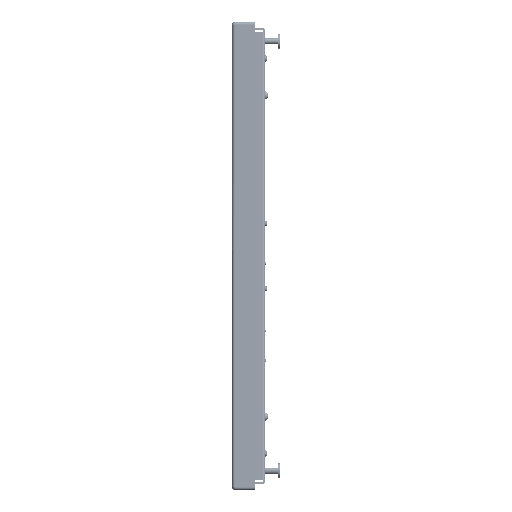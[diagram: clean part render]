
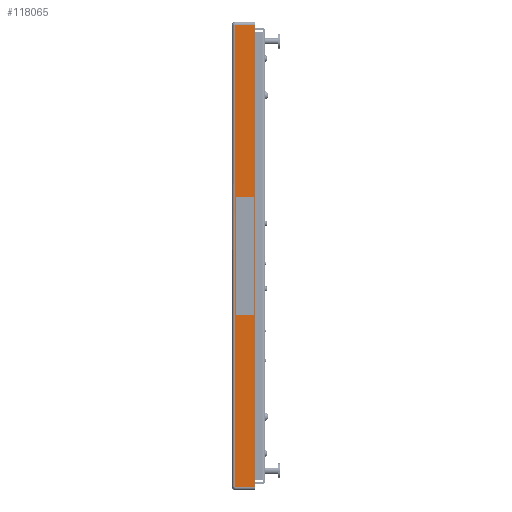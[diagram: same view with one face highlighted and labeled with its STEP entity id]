
A CAD part, left-side view. The second image highlights one B-rep face of the part: STEP entity #118065.
In plain terms, the highlighted planar face has unit normal (-1, 0, 0).
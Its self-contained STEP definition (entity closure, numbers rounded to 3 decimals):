
#6507 = VERTEX_POINT ( 'NONE', #374764 ) ;
#6635 = CARTESIAN_POINT ( 'NONE',  ( -300., 0., -296.27 ) ) ;
#19718 = CARTESIAN_POINT ( 'NONE',  ( -300., 26.437, 0. ) ) ;
#20624 = DIRECTION ( 'NONE',  ( 0., 0., -1. ) ) ;
#21060 = VERTEX_POINT ( 'NONE', #173782 ) ;
#32188 = LINE ( 'NONE', #207276, #136182 ) ;
#47949 = ORIENTED_EDGE ( 'NONE', *, *, #201762, .T. ) ;
#111604 = EDGE_CURVE ( 'NONE', #307796, #400968, #32188, .T. ) ;
#114631 = CARTESIAN_POINT ( 'NONE',  ( -300., 0., 296.27 ) ) ;
#118065 = ADVANCED_FACE ( 'NONE', ( #252445 ), #391889, .F. ) ;
#124772 = ORIENTED_EDGE ( 'NONE', *, *, #319680, .T. ) ;
#136182 = VECTOR ( 'NONE', #20624, 1000. ) ;
#148269 = DIRECTION ( 'NONE',  ( 0., 0., -1. ) ) ;
#159074 = VECTOR ( 'NONE', #399390, 1000. ) ;
#170080 = CARTESIAN_POINT ( 'NONE',  ( -300., 0.813, -296.27 ) ) ;
#173782 = CARTESIAN_POINT ( 'NONE',  ( -300., 26.437, -296.27 ) ) ;
#190767 = VECTOR ( 'NONE', #148269, 1000. ) ;
#201762 = EDGE_CURVE ( 'NONE', #6507, #21060, #284905, .T. ) ;
#207276 = CARTESIAN_POINT ( 'NONE',  ( -300., 0.813, -300. ) ) ;
#227897 = DIRECTION ( 'NONE',  ( 0., 1., 0. ) ) ;
#228466 = EDGE_LOOP ( 'NONE', ( #392035, #124772, #47949, #402388 ) ) ;
#246309 = AXIS2_PLACEMENT_3D ( 'NONE', #266206, #300558, #361457 ) ;
#252445 = FACE_OUTER_BOUND ( 'NONE', #228466, .T. ) ;
#253212 = LINE ( 'NONE', #114631, #159074 ) ;
#253885 = EDGE_CURVE ( 'NONE', #400968, #21060, #304520, .T. ) ;
#266206 = CARTESIAN_POINT ( 'NONE',  ( -300., 0., 0. ) ) ;
#284905 = LINE ( 'NONE', #19718, #190767 ) ;
#300558 = DIRECTION ( 'NONE',  ( 1., 0., 0. ) ) ;
#304520 = LINE ( 'NONE', #6635, #378766 ) ;
#307796 = VERTEX_POINT ( 'NONE', #326710 ) ;
#319680 = EDGE_CURVE ( 'NONE', #307796, #6507, #253212, .T. ) ;
#326710 = CARTESIAN_POINT ( 'NONE',  ( -300., 0.813, 296.27 ) ) ;
#361457 = DIRECTION ( 'NONE',  ( 0., 1., 0. ) ) ;
#374764 = CARTESIAN_POINT ( 'NONE',  ( -300., 26.437, 296.27 ) ) ;
#378766 = VECTOR ( 'NONE', #227897, 1000. ) ;
#391889 = PLANE ( 'NONE',  #246309 ) ;
#392035 = ORIENTED_EDGE ( 'NONE', *, *, #111604, .F. ) ;
#399390 = DIRECTION ( 'NONE',  ( 0., 1., 0. ) ) ;
#400968 = VERTEX_POINT ( 'NONE', #170080 ) ;
#402388 = ORIENTED_EDGE ( 'NONE', *, *, #253885, .F. ) ;
